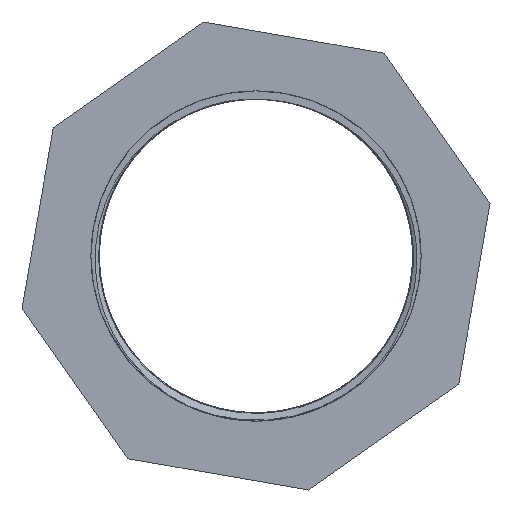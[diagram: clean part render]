
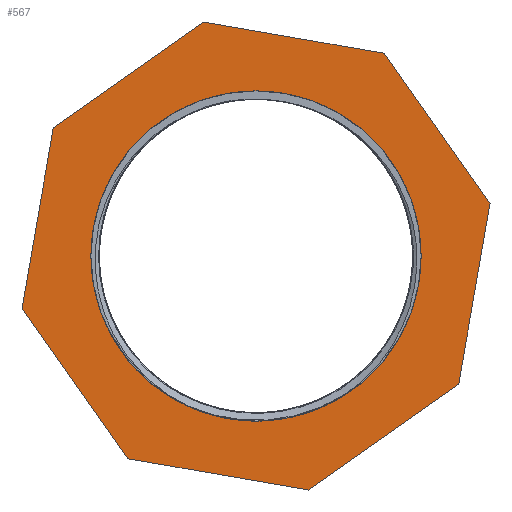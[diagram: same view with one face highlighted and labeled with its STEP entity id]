
A CAD part, left-side view. The second image highlights one B-rep face of the part: STEP entity #567.
In plain terms, the highlighted planar face has unit normal (-1, 0, 0).
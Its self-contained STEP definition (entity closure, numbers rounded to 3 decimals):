
#71=LINE('',#764,#95);
#75=LINE('',#771,#99);
#78=LINE('',#777,#102);
#81=LINE('',#783,#105);
#84=LINE('',#789,#108);
#87=LINE('',#795,#111);
#90=LINE('',#801,#114);
#92=LINE('',#804,#116);
#95=VECTOR('',#658,10.);
#99=VECTOR('',#664,10.);
#102=VECTOR('',#669,10.);
#105=VECTOR('',#674,10.);
#108=VECTOR('',#679,10.);
#111=VECTOR('',#684,10.);
#114=VECTOR('',#689,10.);
#116=VECTOR('',#693,10.);
#132=FACE_BOUND('',#200,.T.);
#155=FACE_OUTER_BOUND('',#199,.T.);
#199=EDGE_LOOP('',(#432,#433,#434,#435,#436,#437,#438,#439));
#200=EDGE_LOOP('',(#440));
#236=CIRCLE('',#616,29.805);
#252=VERTEX_POINT('',#761);
#253=VERTEX_POINT('',#763);
#255=VERTEX_POINT('',#769);
#257=VERTEX_POINT('',#775);
#259=VERTEX_POINT('',#781);
#261=VERTEX_POINT('',#787);
#263=VERTEX_POINT('',#793);
#265=VERTEX_POINT('',#799);
#268=VERTEX_POINT('',#813);
#308=EDGE_CURVE('',#252,#253,#71,.T.);
#312=EDGE_CURVE('',#255,#252,#75,.T.);
#315=EDGE_CURVE('',#257,#255,#78,.T.);
#318=EDGE_CURVE('',#259,#257,#81,.T.);
#321=EDGE_CURVE('',#261,#259,#84,.T.);
#324=EDGE_CURVE('',#263,#261,#87,.T.);
#327=EDGE_CURVE('',#265,#263,#90,.T.);
#329=EDGE_CURVE('',#253,#265,#92,.T.);
#332=EDGE_CURVE('',#268,#268,#236,.T.);
#432=ORIENTED_EDGE('',*,*,#318,.F.);
#433=ORIENTED_EDGE('',*,*,#321,.F.);
#434=ORIENTED_EDGE('',*,*,#324,.F.);
#435=ORIENTED_EDGE('',*,*,#327,.F.);
#436=ORIENTED_EDGE('',*,*,#329,.F.);
#437=ORIENTED_EDGE('',*,*,#308,.F.);
#438=ORIENTED_EDGE('',*,*,#312,.F.);
#439=ORIENTED_EDGE('',*,*,#315,.F.);
#440=ORIENTED_EDGE('',*,*,#332,.F.);
#547=PLANE('',#615);
#567=ADVANCED_FACE('',(#155,#132),#547,.T.);
#615=AXIS2_PLACEMENT_3D('',#812,#704,#705);
#616=AXIS2_PLACEMENT_3D('',#814,#706,#707);
#658=DIRECTION('',(0.,-0.985,-0.171));
#664=DIRECTION('',(0.,-0.817,0.576));
#669=DIRECTION('',(0.,-0.171,0.985));
#674=DIRECTION('',(0.,0.576,0.817));
#679=DIRECTION('',(0.,0.985,0.171));
#684=DIRECTION('',(0.,0.817,-0.576));
#689=DIRECTION('',(0.,0.171,-0.985));
#693=DIRECTION('',(0.,-0.576,-0.817));
#704=DIRECTION('center_axis',(-1.,0.,0.));
#705=DIRECTION('ref_axis',(0.,0.,1.));
#706=DIRECTION('center_axis',(-1.,0.,0.));
#707=DIRECTION('ref_axis',(0.,0.,1.));
#761=CARTESIAN_POINT('',(0.,9.499,42.241));
#763=CARTESIAN_POINT('',(0.,-23.152,36.586));
#764=CARTESIAN_POINT('',(0.,9.499,42.241));
#769=CARTESIAN_POINT('',(0.,36.586,23.152));
#771=CARTESIAN_POINT('',(0.,36.586,23.152));
#775=CARTESIAN_POINT('',(0.,42.241,-9.499));
#777=CARTESIAN_POINT('',(0.,42.241,-9.499));
#781=CARTESIAN_POINT('',(0.,23.152,-36.586));
#783=CARTESIAN_POINT('',(0.,23.152,-36.586));
#787=CARTESIAN_POINT('',(0.,-9.499,-42.241));
#789=CARTESIAN_POINT('',(0.,-9.499,-42.241));
#793=CARTESIAN_POINT('',(0.,-36.586,-23.152));
#795=CARTESIAN_POINT('',(0.,-36.586,-23.152));
#799=CARTESIAN_POINT('',(0.,-42.241,9.499));
#801=CARTESIAN_POINT('',(0.,-42.241,9.499));
#804=CARTESIAN_POINT('',(0.,-23.152,36.586));
#812=CARTESIAN_POINT('Origin',(0.,-29.805,0.));
#813=CARTESIAN_POINT('',(0.,-29.805,0.));
#814=CARTESIAN_POINT('Origin',(0.,0.,0.));
